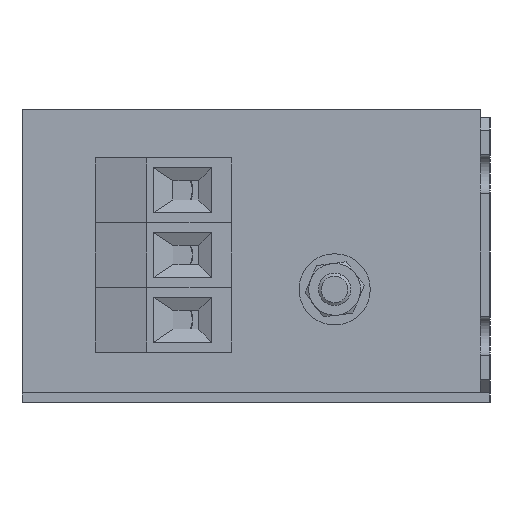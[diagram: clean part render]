
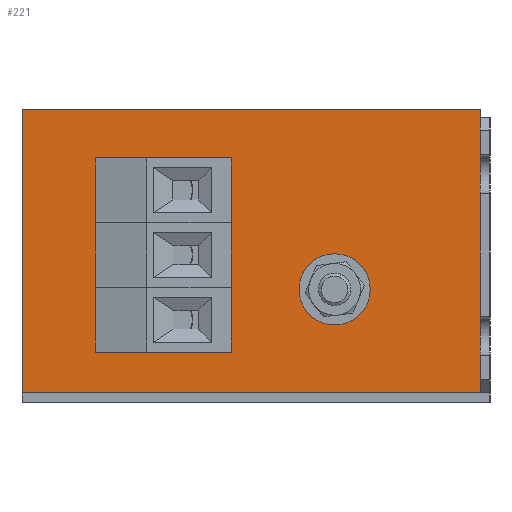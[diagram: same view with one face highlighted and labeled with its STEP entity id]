
A CAD part, left-side view. The second image highlights one B-rep face of the part: STEP entity #221.
In plain terms, the highlighted planar face has unit normal (-1, 0, 0).
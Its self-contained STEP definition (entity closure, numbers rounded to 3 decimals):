
#35 = ORIENTED_EDGE ( 'NONE', *, *, #2717, .T. ) ;
#137 = AXIS2_PLACEMENT_3D ( 'NONE', #6141, #2942, #420 ) ;
#221 = ADVANCED_FACE ( 'NONE', ( #5682, #6278, #5478, #2555, #4618 ), #6346, .F. ) ;
#240 = DIRECTION ( 'NONE',  ( 1., 0., 0. ) ) ;
#346 = CARTESIAN_POINT ( 'NONE',  ( 15., 1.5, -42.6 ) ) ;
#420 = DIRECTION ( 'NONE',  ( 0., 0., -1. ) ) ;
#438 = VERTEX_POINT ( 'NONE', #346 ) ;
#451 = ORIENTED_EDGE ( 'NONE', *, *, #1898, .T. ) ;
#556 = VECTOR ( 'NONE', #3116, 1000. ) ;
#567 = DIRECTION ( 'NONE',  ( 0., 0., -1. ) ) ;
#594 = VERTEX_POINT ( 'NONE', #1319 ) ;
#636 = CARTESIAN_POINT ( 'NONE',  ( 15., 50., -15.4 ) ) ;
#637 = EDGE_CURVE ( 'NONE', #438, #6513, #7318, .T. ) ;
#647 = LINE ( 'NONE', #2485, #556 ) ;
#648 = CARTESIAN_POINT ( 'NONE',  ( 15., 50., -27.2 ) ) ;
#672 = CARTESIAN_POINT ( 'NONE',  ( 15., 72.3, 1.2 ) ) ;
#683 = DIRECTION ( 'NONE',  ( 0., 0., -1. ) ) ;
#864 = CIRCLE ( 'NONE', #2927, 4.1 ) ;
#989 = CARTESIAN_POINT ( 'NONE',  ( 15., 50., -31.3 ) ) ;
#1004 = ORIENTED_EDGE ( 'NONE', *, *, #7203, .T. ) ;
#1018 = DIRECTION ( 'NONE',  ( 1., 0., 0. ) ) ;
#1078 = VERTEX_POINT ( 'NONE', #6117 ) ;
#1319 = CARTESIAN_POINT ( 'NONE',  ( 15., 50., -35.4 ) ) ;
#1406 = ORIENTED_EDGE ( 'NONE', *, *, #1724, .T. ) ;
#1562 = VERTEX_POINT ( 'NONE', #6488 ) ;
#1608 = AXIS2_PLACEMENT_3D ( 'NONE', #2077, #240, #6542 ) ;
#1724 = EDGE_CURVE ( 'NONE', #3571, #594, #4784, .T. ) ;
#1782 = ORIENTED_EDGE ( 'NONE', *, *, #2955, .F. ) ;
#1799 = EDGE_LOOP ( 'NONE', ( #3054, #1406 ) ) ;
#1807 = EDGE_CURVE ( 'NONE', #4736, #7094, #3121, .T. ) ;
#1843 = DIRECTION ( 'NONE',  ( 1., 0., 0. ) ) ;
#1856 = CARTESIAN_POINT ( 'NONE',  ( 15., 24., -24.1 ) ) ;
#1898 = EDGE_CURVE ( 'NONE', #6914, #1078, #7169, .T. ) ;
#1987 = CARTESIAN_POINT ( 'NONE',  ( 15., 24., -26.6 ) ) ;
#2019 = DIRECTION ( 'NONE',  ( 0., 0., 1. ) ) ;
#2028 = CIRCLE ( 'NONE', #7793, 4.1 ) ;
#2039 = CARTESIAN_POINT ( 'NONE',  ( 15., 72.3, 1.2 ) ) ;
#2077 = CARTESIAN_POINT ( 'NONE',  ( 15., 24., -26.6 ) ) ;
#2209 = EDGE_CURVE ( 'NONE', #6980, #3998, #6654, .T. ) ;
#2450 = DIRECTION ( 'NONE',  ( 1., 0., 0. ) ) ;
#2485 = CARTESIAN_POINT ( 'NONE',  ( 15., 72.3, -42.6 ) ) ;
#2544 = AXIS2_PLACEMENT_3D ( 'NONE', #8063, #1843, #567 ) ;
#2555 = FACE_BOUND ( 'NONE', #1799, .T. ) ;
#2569 = EDGE_CURVE ( 'NONE', #594, #3571, #864, .T. ) ;
#2671 = ORIENTED_EDGE ( 'NONE', *, *, #3580, .T. ) ;
#2679 = CIRCLE ( 'NONE', #2693, 2.5 ) ;
#2692 = DIRECTION ( 'NONE',  ( 0., -1., 0. ) ) ;
#2693 = AXIS2_PLACEMENT_3D ( 'NONE', #1987, #6366, #5128 ) ;
#2717 = EDGE_CURVE ( 'NONE', #1078, #6914, #7547, .T. ) ;
#2923 = CARTESIAN_POINT ( 'NONE',  ( 15., 72.3, 1.2 ) ) ;
#2927 = AXIS2_PLACEMENT_3D ( 'NONE', #989, #1018, #5376 ) ;
#2942 = DIRECTION ( 'NONE',  ( 1., 0., 0. ) ) ;
#2948 = CARTESIAN_POINT ( 'NONE',  ( 15., 50., -7.2 ) ) ;
#2955 = EDGE_CURVE ( 'NONE', #3474, #6513, #7156, .T. ) ;
#2959 = EDGE_LOOP ( 'NONE', ( #5241, #7614 ) ) ;
#2963 = ORIENTED_EDGE ( 'NONE', *, *, #637, .T. ) ;
#3000 = LINE ( 'NONE', #2923, #6335 ) ;
#3054 = ORIENTED_EDGE ( 'NONE', *, *, #2569, .T. ) ;
#3116 = DIRECTION ( 'NONE',  ( 0., -1., 0. ) ) ;
#3121 = CIRCLE ( 'NONE', #1608, 2.5 ) ;
#3123 = AXIS2_PLACEMENT_3D ( 'NONE', #6254, #2450, #7486 ) ;
#3474 = VERTEX_POINT ( 'NONE', #672 ) ;
#3571 = VERTEX_POINT ( 'NONE', #648 ) ;
#3580 = EDGE_CURVE ( 'NONE', #1562, #438, #647, .T. ) ;
#3709 = VECTOR ( 'NONE', #2692, 1000. ) ;
#3827 = CARTESIAN_POINT ( 'NONE',  ( 15., 50., -11.3 ) ) ;
#3831 = CARTESIAN_POINT ( 'NONE',  ( 15., 24., -29.1 ) ) ;
#3964 = EDGE_CURVE ( 'NONE', #1562, #3474, #3000, .T. ) ;
#3997 = CARTESIAN_POINT ( 'NONE',  ( 15., 72.3, 1.2 ) ) ;
#3998 = VERTEX_POINT ( 'NONE', #2948 ) ;
#4496 = DIRECTION ( 'NONE',  ( 1., 0., 0. ) ) ;
#4509 = CARTESIAN_POINT ( 'NONE',  ( 15., 1.5, 1.2 ) ) ;
#4536 = DIRECTION ( 'NONE',  ( 1., 0., 0. ) ) ;
#4618 = FACE_OUTER_BOUND ( 'NONE', #6526, .T. ) ;
#4736 = VERTEX_POINT ( 'NONE', #1856 ) ;
#4784 = CIRCLE ( 'NONE', #3123, 4.1 ) ;
#4866 = EDGE_CURVE ( 'NONE', #3998, #6980, #2028, .T. ) ;
#5128 = DIRECTION ( 'NONE',  ( 0., 0., -1. ) ) ;
#5160 = CARTESIAN_POINT ( 'NONE',  ( 15., 50., -21.3 ) ) ;
#5209 = DIRECTION ( 'NONE',  ( 0., 0., -1. ) ) ;
#5241 = ORIENTED_EDGE ( 'NONE', *, *, #2209, .T. ) ;
#5376 = DIRECTION ( 'NONE',  ( 0., 0., -1. ) ) ;
#5417 = EDGE_LOOP ( 'NONE', ( #451, #35 ) ) ;
#5478 = FACE_BOUND ( 'NONE', #5417, .T. ) ;
#5531 = VECTOR ( 'NONE', #2019, 1000. ) ;
#5643 = AXIS2_PLACEMENT_3D ( 'NONE', #5160, #4536, #7686 ) ;
#5682 = FACE_BOUND ( 'NONE', #7887, .T. ) ;
#6117 = CARTESIAN_POINT ( 'NONE',  ( 15., 50., -17.2 ) ) ;
#6121 = CARTESIAN_POINT ( 'NONE',  ( 15., 50., -25.4 ) ) ;
#6141 = CARTESIAN_POINT ( 'NONE',  ( 15., 50., -21.3 ) ) ;
#6254 = CARTESIAN_POINT ( 'NONE',  ( 15., 50., -31.3 ) ) ;
#6278 = FACE_BOUND ( 'NONE', #2959, .T. ) ;
#6280 = ORIENTED_EDGE ( 'NONE', *, *, #3964, .F. ) ;
#6335 = VECTOR ( 'NONE', #7973, 1000. ) ;
#6346 = PLANE ( 'NONE',  #7534 ) ;
#6366 = DIRECTION ( 'NONE',  ( 1., 0., 0. ) ) ;
#6488 = CARTESIAN_POINT ( 'NONE',  ( 15., 72.3, -42.6 ) ) ;
#6513 = VERTEX_POINT ( 'NONE', #4509 ) ;
#6526 = EDGE_LOOP ( 'NONE', ( #2963, #1782, #6280, #2671 ) ) ;
#6542 = DIRECTION ( 'NONE',  ( 0., 0., -1. ) ) ;
#6654 = CIRCLE ( 'NONE', #2544, 4.1 ) ;
#6914 = VERTEX_POINT ( 'NONE', #6121 ) ;
#6980 = VERTEX_POINT ( 'NONE', #636 ) ;
#7094 = VERTEX_POINT ( 'NONE', #3831 ) ;
#7134 = DIRECTION ( 'NONE',  ( 1., 0., 0. ) ) ;
#7156 = LINE ( 'NONE', #2039, #3709 ) ;
#7169 = CIRCLE ( 'NONE', #5643, 4.1 ) ;
#7203 = EDGE_CURVE ( 'NONE', #7094, #4736, #2679, .T. ) ;
#7318 = LINE ( 'NONE', #7680, #5531 ) ;
#7486 = DIRECTION ( 'NONE',  ( 0., 0., -1. ) ) ;
#7534 = AXIS2_PLACEMENT_3D ( 'NONE', #3997, #7134, #5209 ) ;
#7547 = CIRCLE ( 'NONE', #137, 4.1 ) ;
#7614 = ORIENTED_EDGE ( 'NONE', *, *, #4866, .T. ) ;
#7680 = CARTESIAN_POINT ( 'NONE',  ( 15., 1.5, 1.2 ) ) ;
#7686 = DIRECTION ( 'NONE',  ( 0., 0., -1. ) ) ;
#7793 = AXIS2_PLACEMENT_3D ( 'NONE', #3827, #4496, #683 ) ;
#7887 = EDGE_LOOP ( 'NONE', ( #1004, #8062 ) ) ;
#7973 = DIRECTION ( 'NONE',  ( 0., 0., 1. ) ) ;
#8062 = ORIENTED_EDGE ( 'NONE', *, *, #1807, .T. ) ;
#8063 = CARTESIAN_POINT ( 'NONE',  ( 15., 50., -11.3 ) ) ;
